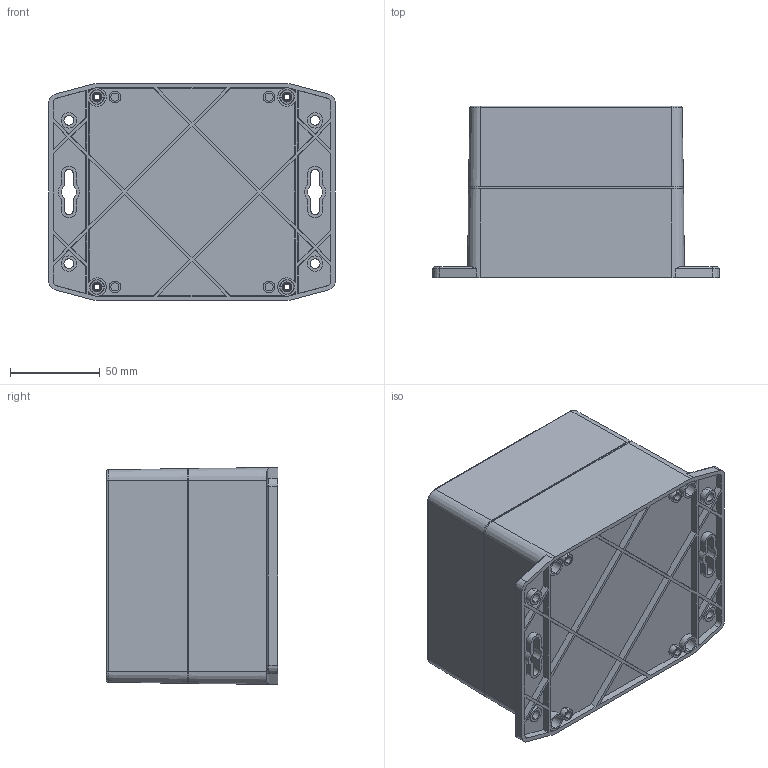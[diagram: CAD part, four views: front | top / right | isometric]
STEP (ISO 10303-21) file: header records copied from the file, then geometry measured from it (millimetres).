
FILE_DESCRIPTION (( 'STEP AP203' ), '1' );
FILE_NAME ('PF232.STEP', '2020-03-02T10:45:14', ( '' ), ( '' ), 'SwSTEP 2.0', 'SolidWorks 2020', '' );
FILE_SCHEMA (( 'CONFIG_CONTROL_DESIGN' ));
Length unit declared in the file: millimetre
Products named in the file (4): PF232
Assembly tree (3 placements, depth 2):
  PF232
    PF232
    PF232
    PF232
Bounding box: 159.8 x 95.7 x 120.98 mm (x, y, z)
Volume: 314498.1 mm3; surface area: 219770.5 mm2
Topology: 7 solids, 7 shells, 1153 faces, 3084 edges, 2018 vertices
Faces by surface type: plane 377, cylinder 310, bspline 232, cone 226, torus 8
Entity records: 38894 total; most frequent: CARTESIAN_POINT 10801, ORIENTED_EDGE 6108, DIRECTION 5340, EDGE_CURVE 3054, VERTEX_POINT 2018, AXIS2_PLACEMENT_3D 1925, LINE 1490, VECTOR 1490
